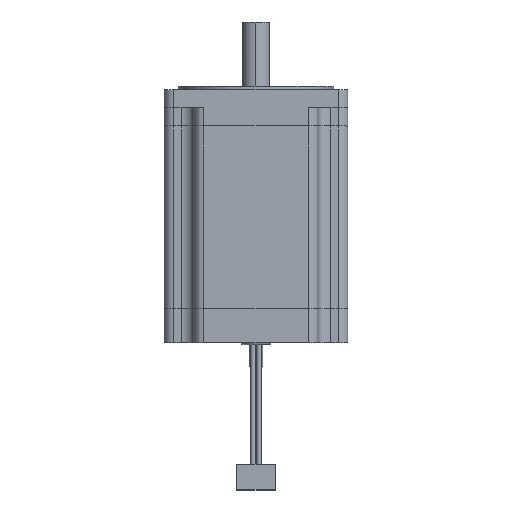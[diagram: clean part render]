
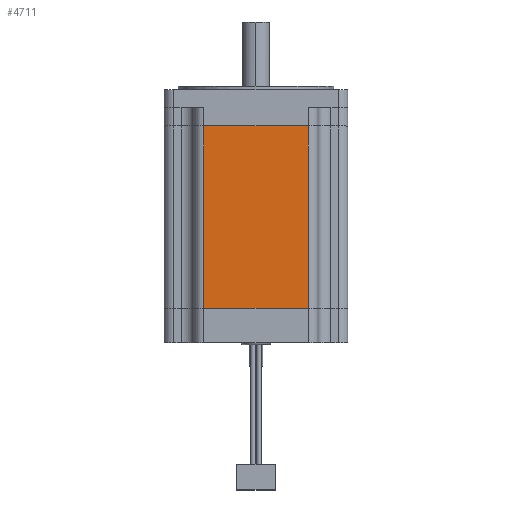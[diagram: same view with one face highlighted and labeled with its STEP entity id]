
A CAD part, top view. The second image highlights one B-rep face of the part: STEP entity #4711.
In plain terms, the highlighted planar face has unit normal (0, 0, 1).
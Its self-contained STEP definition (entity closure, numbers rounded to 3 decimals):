
#4059=DIRECTION('',(1.,0.,0.));
#4060=VECTOR('',#4059,48.94);
#4061=CARTESIAN_POINT('',(-24.47,0.,43.));
#4062=LINE('',#4061,#4060);
#4199=DIRECTION('',(0.,1.,0.));
#4200=VECTOR('',#4199,85.5);
#4201=CARTESIAN_POINT('',(24.47,0.,43.));
#4202=LINE('',#4201,#4200);
#4207=DIRECTION('',(1.,0.,0.));
#4208=VECTOR('',#4207,48.94);
#4209=CARTESIAN_POINT('',(-24.47,85.5,43.));
#4210=LINE('',#4209,#4208);
#4215=DIRECTION('',(0.,-1.,0.));
#4216=VECTOR('',#4215,85.5);
#4217=CARTESIAN_POINT('',(-24.47,85.5,43.));
#4218=LINE('',#4217,#4216);
#4371=CARTESIAN_POINT('',(-24.47,0.,43.));
#4372=VERTEX_POINT('',#4371);
#4373=CARTESIAN_POINT('',(24.47,0.,43.));
#4374=VERTEX_POINT('',#4373);
#4427=CARTESIAN_POINT('',(24.47,85.5,43.));
#4428=VERTEX_POINT('',#4427);
#4429=CARTESIAN_POINT('',(-24.47,85.5,43.));
#4430=VERTEX_POINT('',#4429);
#4698=CARTESIAN_POINT('',(-28.97,0.,43.));
#4699=DIRECTION('',(0.,0.,1.));
#4700=DIRECTION('',(1.,0.,0.));
#4701=AXIS2_PLACEMENT_3D('',#4698,#4699,#4700);
#4702=PLANE('',#4701);
#4704=ORIENTED_EDGE('',*,*,#4703,.F.);
#4706=ORIENTED_EDGE('',*,*,#4705,.T.);
#4707=ORIENTED_EDGE('',*,*,#4690,.F.);
#4708=ORIENTED_EDGE('',*,*,#4480,.F.);
#4709=EDGE_LOOP('',(#4704,#4706,#4707,#4708));
#4710=FACE_OUTER_BOUND('',#4709,.F.);
#4711=ADVANCED_FACE('',(#4710),#4702,.T.);
#4480=EDGE_CURVE('',#4372,#4374,#4062,.T.);
#4690=EDGE_CURVE('',#4374,#4428,#4202,.T.);
#4703=EDGE_CURVE('',#4430,#4372,#4218,.T.);
#4705=EDGE_CURVE('',#4430,#4428,#4210,.T.);
